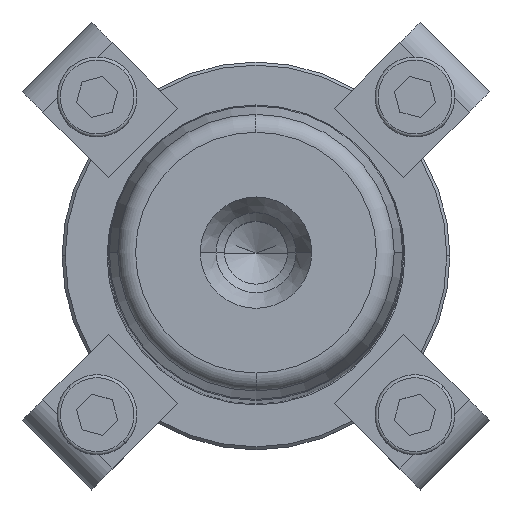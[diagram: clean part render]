
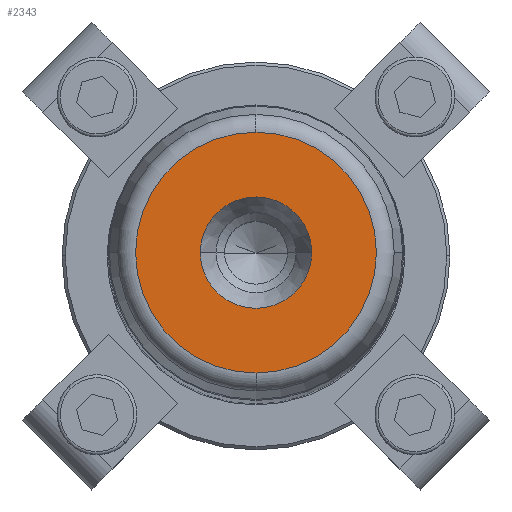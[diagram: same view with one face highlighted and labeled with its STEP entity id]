
A CAD part, top view. The second image highlights one B-rep face of the part: STEP entity #2343.
In plain terms, the highlighted planar face has unit normal (0, 0, 1).
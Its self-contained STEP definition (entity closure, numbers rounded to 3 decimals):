
#431=CARTESIAN_POINT('',(9.05,0.,315.0));
#432=VERTEX_POINT('',#431);
#439=CARTESIAN_POINT('',(-9.05,0.,315.0));
#440=VERTEX_POINT('',#439);
#441=CARTESIAN_POINT('',(0.0,0.,315.0));
#442=DIRECTION('',(0.0,0.0,1.0));
#443=DIRECTION('',(1.0,0.0,0.0));
#444=AXIS2_PLACEMENT_3D('',#441,#442,#443);
#445=CIRCLE('',#444,9.05);
#446=EDGE_CURVE('',#432,#440,#445,.T.);
#463=CARTESIAN_POINT('',(0.0,-19.554,315.0));
#464=VERTEX_POINT('',#463);
#474=CARTESIAN_POINT('',(0.,19.554,315.0));
#475=VERTEX_POINT('',#474);
#476=CARTESIAN_POINT('',(0.0,0.,315.0));
#477=DIRECTION('',(0.0,0.0,1.0));
#478=DIRECTION('',(1.0,0.0,0.0));
#479=AXIS2_PLACEMENT_3D('',#476,#477,#478);
#480=CIRCLE('',#479,19.554);
#481=EDGE_CURVE('',#475,#464,#480,.T.);
#2304=CARTESIAN_POINT('',(19.554,0.,315.0));
#2305=VERTEX_POINT('',#2304);
#2306=CARTESIAN_POINT('',(0.0,0.,315.0));
#2307=DIRECTION('',(0.0,0.0,1.0));
#2308=DIRECTION('',(1.0,0.0,0.0));
#2309=AXIS2_PLACEMENT_3D('',#2306,#2307,#2308);
#2310=CIRCLE('',#2309,19.554);
#2311=EDGE_CURVE('',#2305,#475,#2310,.T.);
#2313=CARTESIAN_POINT('',(0.0,0.,315.0));
#2314=DIRECTION('',(0.0,0.0,1.0));
#2315=DIRECTION('',(1.0,0.0,0.0));
#2316=AXIS2_PLACEMENT_3D('',#2313,#2314,#2315);
#2317=CIRCLE('',#2316,19.554);
#2318=EDGE_CURVE('',#464,#2305,#2317,.T.);
#2323=CARTESIAN_POINT('',(14.302,0.,315.0));
#2324=DIRECTION('',(0.0,0.0,1.0));
#2325=DIRECTION('',(0.0,-1.0,0.0));
#2326=AXIS2_PLACEMENT_3D('',#2323,#2324,#2325);
#2327=PLANE('',#2326);
#2328=ORIENTED_EDGE('',*,*,#2311,.T.);
#2329=ORIENTED_EDGE('',*,*,#481,.T.);
#2330=ORIENTED_EDGE('',*,*,#2318,.T.);
#2331=EDGE_LOOP('',(#2328,#2329,#2330));
#2332=FACE_OUTER_BOUND('',#2331,.T.);
#2333=ORIENTED_EDGE('',*,*,#446,.F.);
#2334=CARTESIAN_POINT('',(0.0,0.,315.0));
#2335=DIRECTION('',(0.0,0.0,1.0));
#2336=DIRECTION('',(1.0,0.0,0.0));
#2337=AXIS2_PLACEMENT_3D('',#2334,#2335,#2336);
#2338=CIRCLE('',#2337,9.05);
#2339=EDGE_CURVE('',#440,#432,#2338,.T.);
#2340=ORIENTED_EDGE('',*,*,#2339,.F.);
#2341=EDGE_LOOP('',(#2333,#2340));
#2342=FACE_BOUND('',#2341,.T.);
#2343=ADVANCED_FACE('',(#2332,#2342),#2327,.T.);
